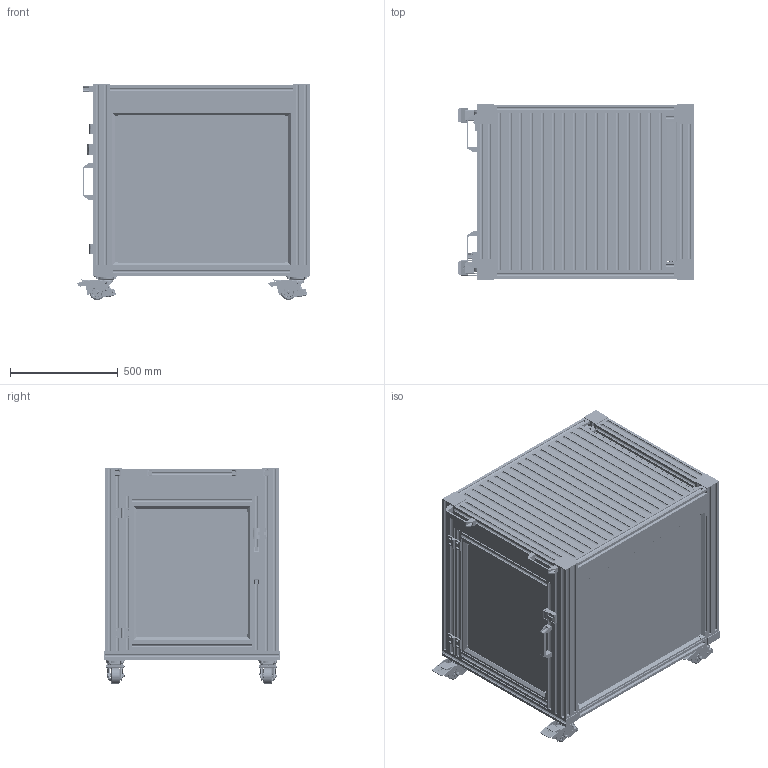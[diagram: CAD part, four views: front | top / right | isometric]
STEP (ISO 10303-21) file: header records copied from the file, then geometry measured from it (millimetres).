
FILE_DESCRIPTION(('STEP AP214'),'1');
FILE_NAME('Cobot-Station klein - 1010x810x1000 ohne Flanschplatte.stp','2026-06-15T11:58:04',(' '),(' '),'Spatial InterOp 3D',' ',' ');
FILE_SCHEMA(('AUTOMOTIVE_DESIGN { 1 0 10303 214 1 1 1 1 }'));
Length unit declared in the file: millimetre
Products named in the file (425): Tür; DOR4551; DOR4501; DOR4511; 1; PAN____P_N____ + CAL4515SNN____ + CAN4501; Polycarbonat; CAL4515SNN____; CAN4501; 101419; 101420; PIM4040SNN718,4; PIL4040S2N560; PIM4040SNN718,40; FAS4041_vvm; FAS4040; 101044; 100941; TIN4506; CAP4041; Cobot 1010x810x1000 Ohne Flanschplatte; BS Heberolle W120.B15.075; 2; 3; 94; 97; 98; 99; 100; 101; 102; 103; 104; 105; 108; 109; 110; 111; 112; 113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
Assembly tree (513 placements, depth 5):
  Cobot 1010x810x1000 Ohne Flanschplatte
    Tür
      DOR4551
      DOR4501
      DOR4511
        DOR4511
        1
      DOR4511
        DOR4511
        1
      PAN____P_N____ + CAL4515SNN____ + CAN4501
        Polycarbonat
        CAL4515SNN____
        CAN4501
          101419
          101420
        CAL4515SNN____
        CAL4515SNN____
        CAL4515SNN____
        CAN4501
          101419
          101420
        CAN4501
          101419
          101420
        CAN4501
          101419
          101420
      PIM4040SNN718,4
      PIL4040S2N560
      PIM4040SNN718,40
      PIL4040S2N560
      FAS4041_vvm
        FAS4040
        101044
        100941  x2
        TIN4506  x2
      FAS4041_vvm
        FAS4040
        101044
        100941  x2
        TIN4506  x2
      FAS4041_vvm
        FAS4040
        101044
        100941  x2
        TIN4506  x2
      FAS4041_vvm
        FAS4040
        101044
        100941  x2
        TIN4506  x2
      CAP4041
      CAP4041
      CAP4041
      CAP4041
    Räder inkl. Verschraubung
      BS Heberolle W120.B15.075
        1
        2
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Bounding box: 1097.74 x 818 x 1004.01 mm (x, y, z)
Volume: 49484337.6 mm3; surface area: 18473931.2 mm2
Topology: 457 solids, 457 shells, 12919 faces, 35861 edges, 24083 vertices
Faces by surface type: plane 8305, cylinder 1589, extrusion 1460, bspline 556, sphere 440, cone 364, torus 205
Full cylindrical faces by diameter (mm): 1 x56, 4 x6, 4.3 x3, 5 x9, 5.1 x1, 5.3 x48, 5.5 x1, 5.6 x16, 6 x64, 6.2 x24, 6.3 x20, 6.5 x10, 7 x23, 8 x76, 8.1 x16, 8.5 x27, 8.6 x16, 9 x4, 9.293 x4, 9.5 x1, 10 x44, 10.157 x4, 10.4 x4, 10.5 x8, 11.3 x4, 12 x24, 12.4 x8, 13 x12, 13.06 x4, 14.157 x4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
Entity records: 587573 total; most frequent: CARTESIAN_POINT 171474, ORIENTED_EDGE 65726, DIRECTION 54313, EDGE_CURVE 32863, VECTOR 23195, VERTEX_POINT 23028, LINE 21735, AXIS2_PLACEMENT_3D 15559
